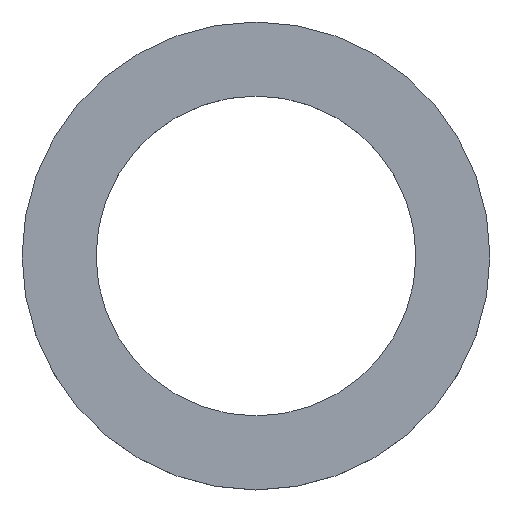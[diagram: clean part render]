
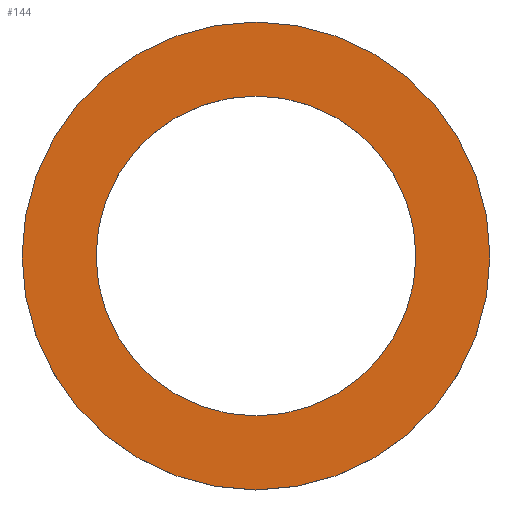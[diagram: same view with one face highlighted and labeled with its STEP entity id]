
A CAD part, top view. The second image highlights one B-rep face of the part: STEP entity #144.
In plain terms, the highlighted planar face has unit normal (0, 0, 1).
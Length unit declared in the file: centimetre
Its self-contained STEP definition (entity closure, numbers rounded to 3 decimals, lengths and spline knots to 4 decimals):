
#104=PLANE('',#152);
#106=VERTEX_POINT('',#170);
#108=VERTEX_POINT('',#175);
#110=CIRCLE('',#147,3.4925);
#112=CIRCLE('',#150,2.3876);
#114=EDGE_CURVE('',#106,#106,#110,.T.);
#116=EDGE_CURVE('',#108,#108,#112,.T.);
#122=ORIENTED_EDGE('',*,*,#116,.F.);
#123=ORIENTED_EDGE('',*,*,#114,.F.);
#130=EDGE_LOOP('',(#122));
#131=EDGE_LOOP('',(#123));
#138=FACE_BOUND('',#130,.T.);
#139=FACE_BOUND('',#131,.T.);
#144=ADVANCED_FACE('',(#138,#139),#104,.T.);
#147=AXIS2_PLACEMENT_3D('',#169,#156,#157);
#150=AXIS2_PLACEMENT_3D('',#174,#162,#163);
#152=AXIS2_PLACEMENT_3D('',#178,#166,$);
#156=DIRECTION('',(0.,0.,-1.));
#157=DIRECTION('',(3.493,0.,0.));
#162=DIRECTION('',(0.,0.,1.));
#163=DIRECTION('',(2.388,0.,0.));
#166=DIRECTION('',(0.,0.,1.));
#169=CARTESIAN_POINT('',(0.,0.,0.635));
#170=CARTESIAN_POINT('',(3.4925,0.,0.635));
#174=CARTESIAN_POINT('',(0.,0.,0.635));
#175=CARTESIAN_POINT('',(2.3876,0.,0.635));
#178=CARTESIAN_POINT('',(0.,0.,0.635));
